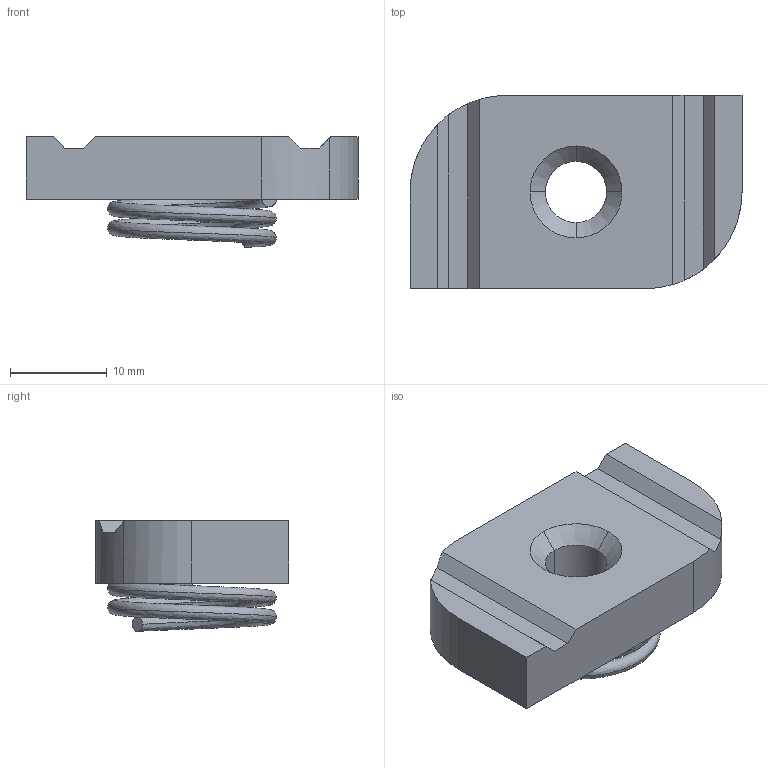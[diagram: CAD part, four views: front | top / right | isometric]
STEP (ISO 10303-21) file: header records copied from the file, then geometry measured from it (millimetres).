
FILE_DESCRIPTION(('TurboCAD Mac Pro'),'Build 980');
FILE_NAME('P4006-1420.stp',' ',(''),(''),'ACIS Interop','IMSI','TurboCAD Mac Pro BY IMSI, INCORPORATED');
FILE_SCHEMA(('automotive_design'));
Length unit declared in the file: inch
Products named in the file (1): 1
Bounding box: 34.4 x 20 x 11.5 mm (x, y, z)
Volume: 3995.4 mm3; surface area: 2468.6 mm2
Topology: 1 solids, 1 shells, 30 faces, 75 edges, 48 vertices
Faces by surface type: plane 16, bspline 10, cylinder 4
Entity records: 2847 total; most frequent: CARTESIAN_POINT 1903, ORIENTED_EDGE 150, DIRECTION 121, EDGE_CURVE 75, VERTEX_POINT 48, LINE 41, VECTOR 41, AXIS2_PLACEMENT_3D 40
